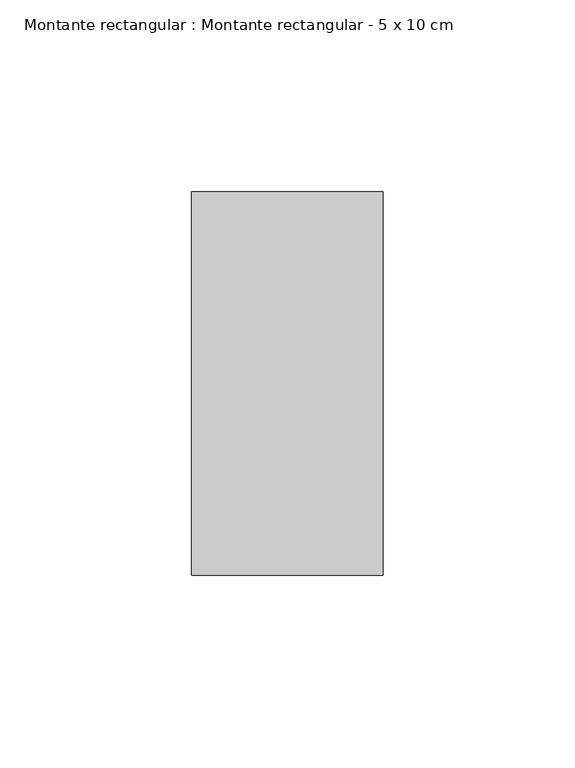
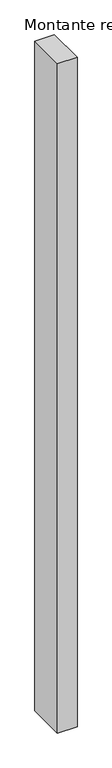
"""IFC4 building model written with IfcOpenShell, lengths in millimetres: member geometry, Montante rectangular : Montante rectangular - 5 x 10 cm."""

from ifc_helpers import new_model, si_unit, frame, origin, place, context, project, spatial, polyline, outline, extrude, source, transform, mapped, element, save


def montante_rectangular_montante_rectangular_5_x_10_cm_3f8fb996(model_context):
    return source(origin(), model_context, "Body", "SweptSolid", [
        extrude(outline(polyline([(0.0, 50.0), (0.0, -50.0), (-50.0, -50.0), (-50.0, 50.0), (0.0, 50.0)])), frame((0.0, 0.0, -1810.2469864), z_axis=(0.0, 0.0, 1.0), x_axis=(1.0, 0.0, 0.0)), (0.0, 0.0, 1.0), 1810.2469864),
    ])


if __name__ == "__main__":
    model = new_model("IFC4")
    model_context = context("Model", 3, world=origin())
    ifc_project = project(units=[si_unit("LENGTHUNIT", "METRE", prefix="MILLI")], contexts=[model_context])
    site = spatial("IfcSite", under=ifc_project)
    building = spatial("IfcBuilding", under=site)
    placement = place(None, origin())
    montante_rectangular_montante_rectangular_5_x_10_cm_shape = montante_rectangular_montante_rectangular_5_x_10_cm_3f8fb996(model_context)
    element("IfcMember", 1, ObjectType="Montante rectangular : Montante rectangular - 5 x 10 cm", at=placement, inside=building, context=model_context, shape_type="MappedRepresentation", body=[
        mapped(montante_rectangular_montante_rectangular_5_x_10_cm_shape, transform((0.0, 0.0, 0.0), x_axis=(1.0, 0.0, 0.0), y_axis=(0.0, 1.0, 0.0), z_axis=(0.0, 0.0, 1.0))),
    ])
    save(model, "model.ifc")
